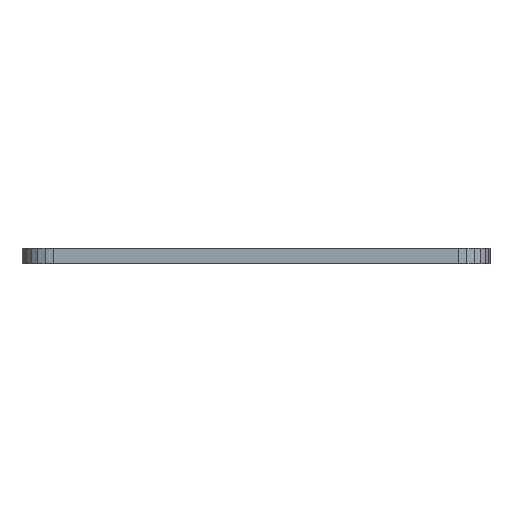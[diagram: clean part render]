
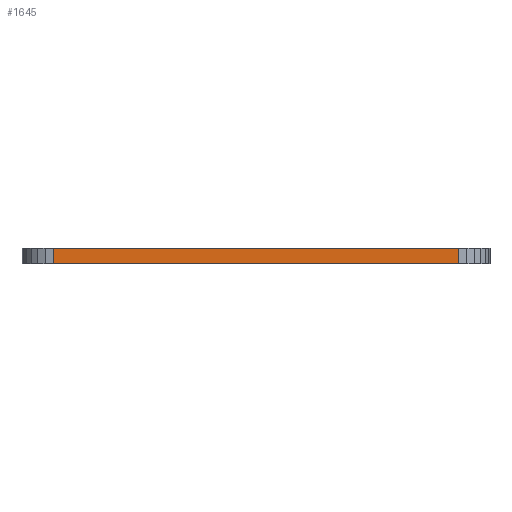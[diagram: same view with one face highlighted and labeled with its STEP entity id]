
A CAD part, left-side view. The second image highlights one B-rep face of the part: STEP entity #1645.
In plain terms, the highlighted planar face has unit normal (-1, 0, 0).
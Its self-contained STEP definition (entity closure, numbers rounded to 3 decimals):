
#59=CARTESIAN_POINT('',(-23.0,-13.0,8.9));
#60=VERTEX_POINT('',#59);
#63=DIRECTION('',(0.0,1.0,0.0));
#64=VECTOR('',#63,26.0);
#65=LINE('',#59,#64);
#66=CARTESIAN_POINT('',(-23.0,13.0,8.9));
#67=VERTEX_POINT('',#66);
#68=EDGE_CURVE('',#60,#67,#65,.T.);
#161=DIRECTION('',(0.0,-1.0,0.0));
#807=DIRECTION('',(-1.0,0.0,0.0));
#846=CARTESIAN_POINT('',(-23.0,13.0,9.9));
#847=VERTEX_POINT('',#846);
#850=VECTOR('',#161,26.0);
#851=LINE('',#846,#850);
#852=CARTESIAN_POINT('',(-23.0,-13.0,9.9));
#853=VERTEX_POINT('',#852);
#854=EDGE_CURVE('',#847,#853,#851,.T.);
#1387=DIRECTION('',(0.0,0.0,1.0));
#1623=VECTOR('',#1387,1.0);
#1624=LINE('',#66,#1623);
#1625=EDGE_CURVE('',#67,#847,#1624,.T.);
#1634=ORIENTED_EDGE('',*,*,#68,.F.);
#1635=VECTOR('',#1387,1.0);
#1636=LINE('',#59,#1635);
#1637=EDGE_CURVE('',#60,#853,#1636,.T.);
#1638=ORIENTED_EDGE('',*,*,#1637,.T.);
#1639=ORIENTED_EDGE('',*,*,#854,.F.);
#1640=ORIENTED_EDGE('',*,*,#1625,.F.);
#1641=EDGE_LOOP('',(#1634,#1638,#1639,#1640));
#1642=FACE_OUTER_BOUND('',#1641,.T.);
#1643=AXIS2_PLACEMENT_3D('',#66,#807,#63);
#1644=PLANE('',#1643);
#1645=ADVANCED_FACE('',(#1642),#1644,.T.);
